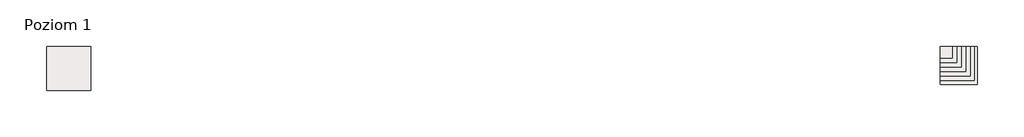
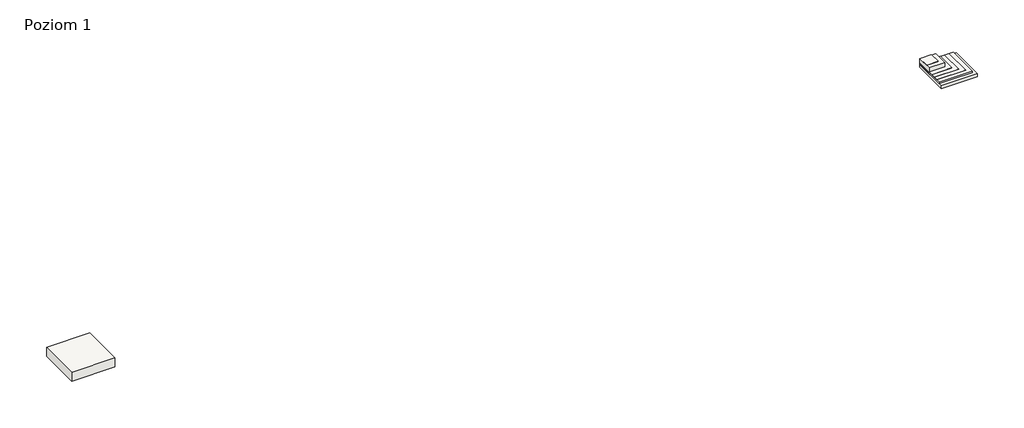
# One storey: 2 roofs.
"""IFC4 building model written with IfcOpenShell, lengths in millimetres."""

from ifc_helpers import new_model, si_unit, frame, origin, origin_with_axes, place, context, project, spatial, polyline, outline, extrude, element, save

model = new_model("IFC4")

# Units and contexts
model_context = context("Model", 3, world=origin())
ifc_project = project(units=[si_unit("LENGTHUNIT", "METRE", prefix="MILLI")], contexts=[model_context])

# Site, building, storey
site = spatial("IfcSite", under=ifc_project)
building = spatial("IfcBuilding", under=site)
storey = spatial("IfcBuildingStorey", under=building, Name="Poziom 1", Elevation=0.0)

# Roofs
placement = place(None, origin())
element("IfcRoof", 1, ObjectType="Dachy zielone w uprawie intensywnej ekonomiczny – Atus CRICKET 20/1000+100 - układ tradycyjny", at=placement, inside=storey, context=model_context, shape_type="SweptSolid", body=[
    extrude(outline(polyline([(-16494.8444454, -525.5470033), (-13494.8444454, -525.5470033), (-13494.8444454, -3525.5470033), (-16494.8444454, -3525.5470033), (-16494.8444454, -525.5470033)])), origin_with_axes(), (0.0, 0.0, 1.0), 650.0),
])
element("IfcRoof", 2, ObjectType="Dachy zielone w uprawie intensywnej ekonomiczny – Atus CRICKET 20/1000+100 - układ tradycyjny", at=placement, inside=storey, context=model_context, shape_type="SweptSolid", body=[
    extrude(outline(polyline([(43905.1555546, -525.5470033), (44705.1555546, -525.5470033), (44705.1555546, -1325.5470033), (43905.1555546, -1325.5470033), (43905.1555546, -525.5470033)])), frame((0.0, 0.0, 625.0), z_axis=(0.0, 0.0, 1.0), x_axis=(1.0, 0.0, 0.0)), (0.0, 0.0, 1.0), 25.0),
    extrude(outline(polyline([(43905.1555546, -525.5470033), (45005.1555546, -525.5470033), (45005.1555546, -1625.5470033), (43905.1555546, -1625.5470033), (43905.1555546, -525.5470033)])), frame((0.0, 0.0, 325.0), z_axis=(0.0, 0.0, 1.0), x_axis=(1.0, 0.0, 0.0)), (0.0, 0.0, 1.0), 300.0),
    extrude(outline(polyline([(43905.1555546, -525.5470033), (45305.1555546, -525.5470033), (45305.1555546, -1925.5470033), (43905.1555546, -1925.5470033), (43905.1555546, -525.5470033)])), frame((0.0, 0.0, 305.0), z_axis=(0.0, 0.0, 1.0), x_axis=(1.0, 0.0, 0.0)), (0.0, 0.0, 1.0), 20.0),
    extrude(outline(polyline([(43905.1555546, -525.5470033), (45605.1555546, -525.5470033), (45605.1555546, -2225.5470033), (43905.1555546, -2225.5470033), (43905.1555546, -525.5470033)])), frame((0.0, 0.0, 302.0), z_axis=(0.0, 0.0, 1.0), x_axis=(1.0, 0.0, 0.0)), (0.0, 0.0, 1.0), 3.0),
    extrude(outline(polyline([(43905.1555546, -525.5470033), (45905.1555546, -525.5470033), (45905.1555546, -2525.5470033), (43905.1555546, -2525.5470033), (43905.1555546, -525.5470033)])), frame((0.0, 0.0, 300.0), z_axis=(0.0, 0.0, 1.0), x_axis=(1.0, 0.0, 0.0)), (0.0, 0.0, 1.0), 2.0),
    extrude(outline(polyline([(43905.1555546, -525.5470033), (46205.1555546, -525.5470033), (46205.1555546, -2825.5470033), (43905.1555546, -2825.5470033), (43905.1555546, -525.5470033)])), frame((0.0, 0.0, 200.0), z_axis=(0.0, 0.0, 1.0), x_axis=(1.0, 0.0, 0.0)), (0.0, 0.0, 1.0), 100.0),
    extrude(outline(polyline([(43905.1555546, -525.5470033), (46405.1555546, -525.5470033), (46405.1555546, -3090.4398026), (43905.1555546, -3090.4398026), (43905.1555546, -525.5470033)])), origin_with_axes(), (0.0, 0.0, 1.0), 200.0),
])

save(model, "model.ifc")
